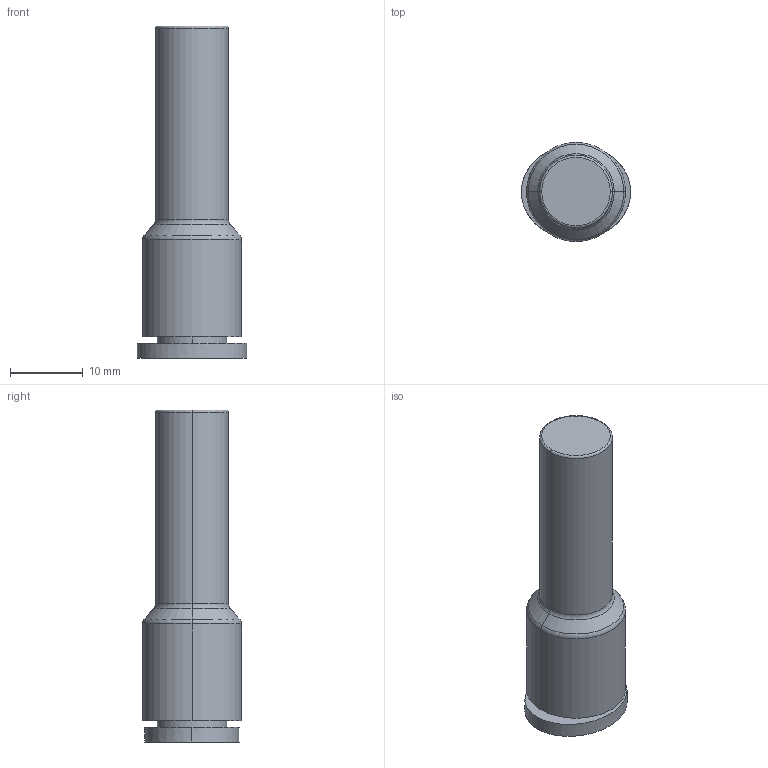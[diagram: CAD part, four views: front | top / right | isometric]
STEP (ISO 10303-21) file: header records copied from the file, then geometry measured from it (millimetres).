
FILE_DESCRIPTION((''),'2;1');
FILE_NAME('2121710080','2021-08-26T22:40:24',('PDH2HC'),(''),'CREO PARAMETRIC BY PTC INC, 2020044','CREO PARAMETRIC BY PTC INC, 2020044','');
FILE_SCHEMA(('AUTOMOTIVE_DESIGN { 1 0 10303 214 1 1 1 1 }'));
Length unit declared in the file: millimetre
Products named in the file (1): 2121710080
Bounding box: 15 x 13.6 x 45.6 mm (x, y, z)
Volume: 3761 mm3; surface area: 2483.8 mm2
Topology: 1 solids, 1 shells, 94 faces, 248 edges, 162 vertices
Faces by surface type: plane 74, cylinder 8, torus 6, cone 4, extrusion 2
Entity records: 3186 total; most frequent: CARTESIAN_POINT 661, ORIENTED_EDGE 496, DIRECTION 482, EDGE_CURVE 248, VECTOR 214, LINE 212, VERTEX_POINT 162, AXIS2_PLACEMENT_3D 134
